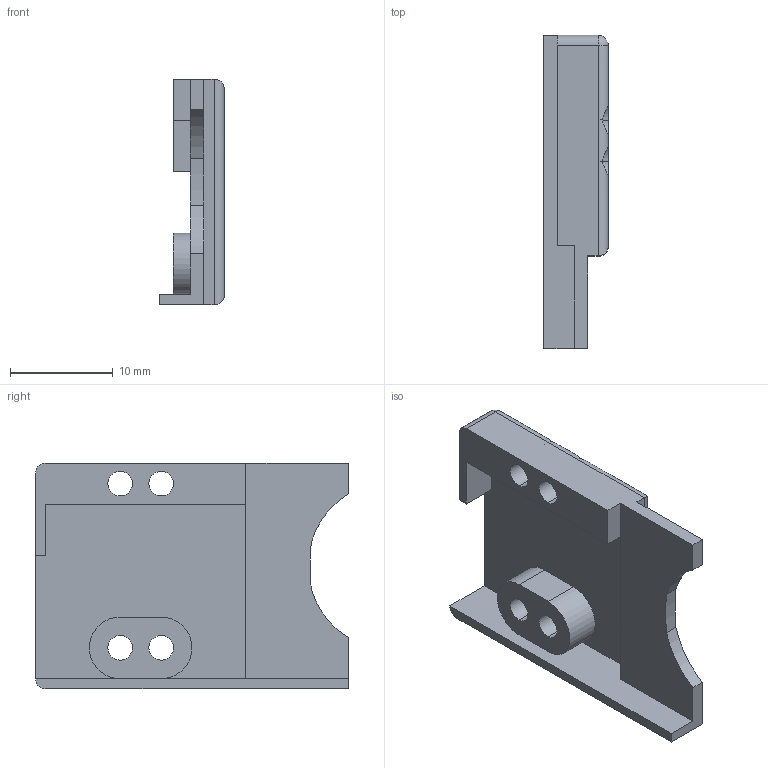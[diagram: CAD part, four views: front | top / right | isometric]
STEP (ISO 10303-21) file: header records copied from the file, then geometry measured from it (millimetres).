
FILE_DESCRIPTION (( 'STEP AP214' ), '1' );
FILE_NAME ('middle_connect_with_line.STEP', '2026-09-17T10:06:01', ( '' ), ( '' ), 'SwSTEP 2.0', 'SolidWorks 2024', '' );
FILE_SCHEMA (( 'AUTOMOTIVE_DESIGN' ));
Length unit declared in the file: millimetre
Products named in the file (2): 手指外壳2_默认; middle_connect_with_line
Assembly tree (1 placements, depth 2):
  middle_connect_with_line
    手指外壳2_默认
Bounding box: 6.3 x 30.5 x 22 mm (x, y, z)
Volume: 1407.1 mm3; surface area: 2129.9 mm2
Topology: 1 solids, 1 shells, 53 faces, 139 edges, 88 vertices
Faces by surface type: cylinder 27, plane 24, sphere 2
Entity records: 1720 total; most frequent: CARTESIAN_POINT 324, DIRECTION 295, ORIENTED_EDGE 274, EDGE_CURVE 137, AXIS2_PLACEMENT_3D 107, VERTEX_POINT 88, LINE 81, VECTOR 81
